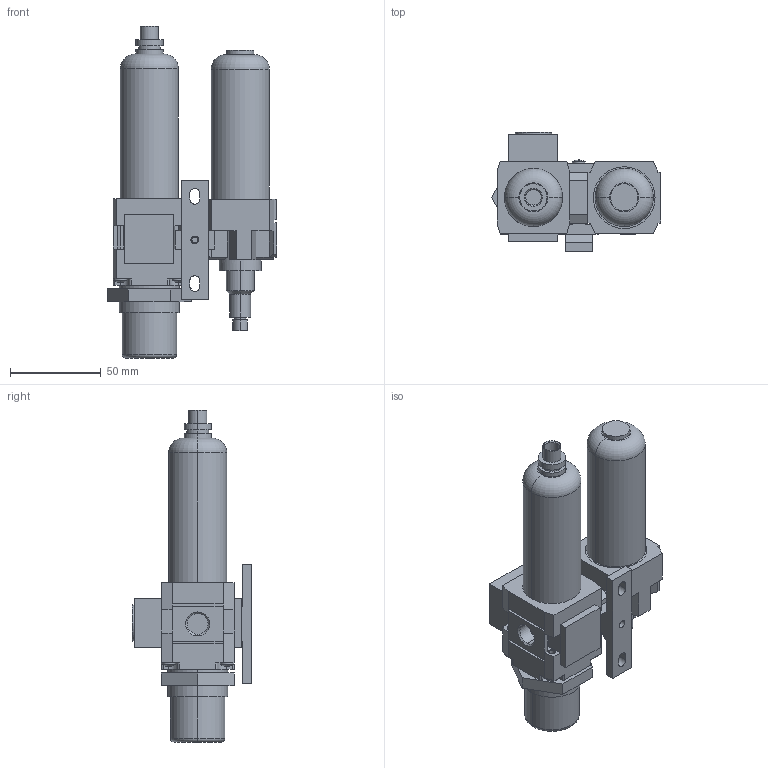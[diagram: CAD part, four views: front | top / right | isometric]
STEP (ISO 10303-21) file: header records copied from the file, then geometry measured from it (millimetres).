
FILE_DESCRIPTION (( 'STEP AP203' ), '1' );
FILE_NAME ('FRL200-02E-D.STEP', '2021-06-30T19:45:17', ( '' ), ( '' ), 'SwSTEP 2.0', 'SolidWorks 2019', '' );
FILE_SCHEMA (( 'CONFIG_CONTROL_DESIGN' ));
Length unit declared in the file: millimetre
Products named in the file (1): FRL200-02E-D
Bounding box: 93.09 x 65.7 x 182.8 mm (x, y, z)
Volume: 306789.1 mm3; surface area: 61359.7 mm2
Topology: 13 solids, 13 shells, 526 faces, 1261 edges, 805 vertices
Faces by surface type: plane 358, cylinder 110, cone 42, sphere 10, torus 6
Entity records: 15255 total; most frequent: DIRECTION 2686, CARTESIAN_POINT 2599, ORIENTED_EDGE 2522, EDGE_CURVE 1261, AXIS2_PLACEMENT_3D 900, VECTOR 886, LINE 886, VERTEX_POINT 805
